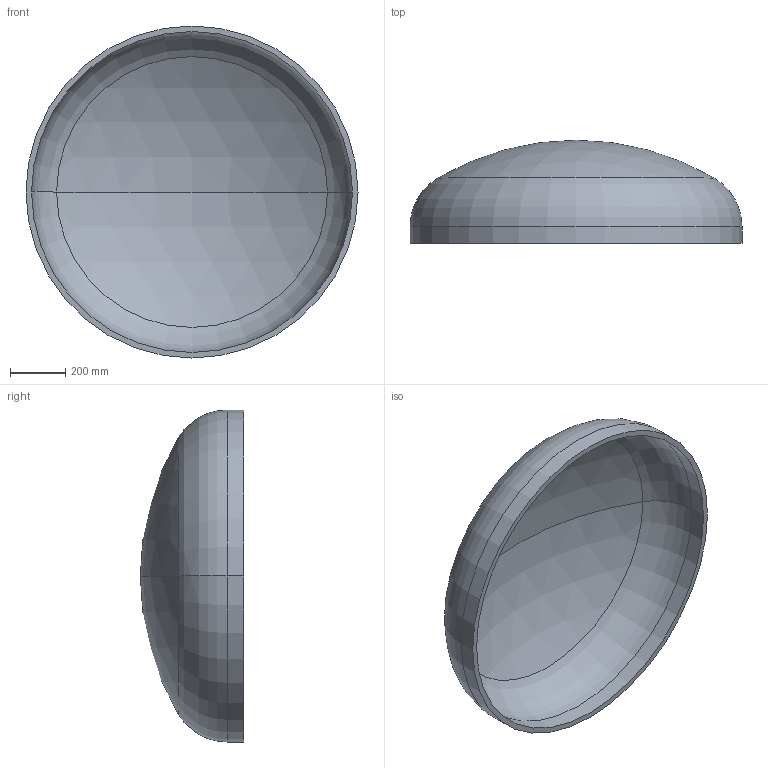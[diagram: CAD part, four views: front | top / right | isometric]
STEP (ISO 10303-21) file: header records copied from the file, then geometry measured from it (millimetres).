
FILE_DESCRIPTION (( 'STEP AP203' ), '1' );
FILE_NAME ('DIN 28013 Korbbogenform_-_Boden DIN 28013 - 1200 x 60 - I - s=20.step', '2016-07-01T09:23:08', ( '' ), ( '' ), 'SwSTEP 2.0', 'SolidWorks 2013', '' );
FILE_SCHEMA (( 'CONFIG_CONTROL_DESIGN' ));
Length unit declared in the file: millimetre
Products named in the file (1): DIN 28013 Korbbogenform_-_Boden DIN 28013 - 1200 x 60 - I - s=20
Bounding box: 1200 x 373.22 x 1200 mm (x, y, z)
Volume: 35101329 mm3; surface area: 3585111.1 mm2
Topology: 1 solids, 1 shells, 13 faces, 24 edges, 14 vertices
Faces by surface type: torus 4, cylinder 4, sphere 4, plane 1
Entity records: 407 total; most frequent: DIRECTION 72, CARTESIAN_POINT 52, ORIENTED_EDGE 48, AXIS2_PLACEMENT_3D 34, EDGE_CURVE 24, CIRCLE 20, VERTEX_POINT 14, EDGE_LOOP 14
